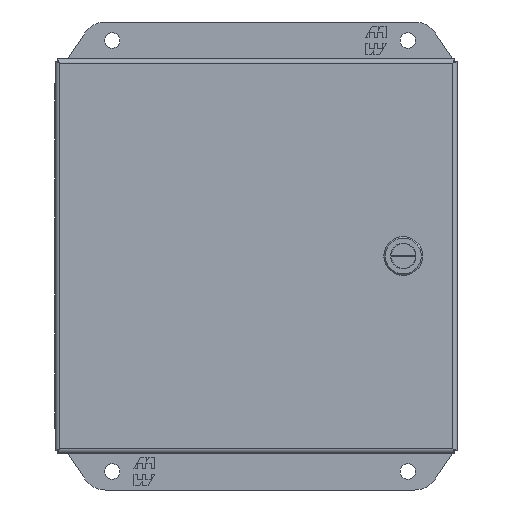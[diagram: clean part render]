
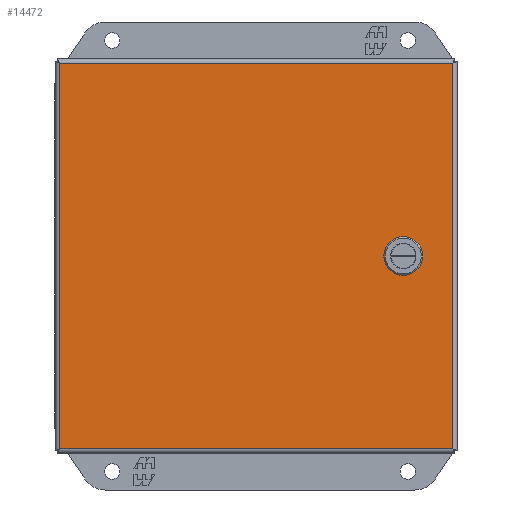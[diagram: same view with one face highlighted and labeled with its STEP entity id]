
A CAD part, front view. The second image highlights one B-rep face of the part: STEP entity #14472.
In plain terms, the highlighted planar face has unit normal (0, -1, 0).
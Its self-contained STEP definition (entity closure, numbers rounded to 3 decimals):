
#1053=PLANE('',#15494);
#2045=LINE('',#25386,#3388);
#2046=LINE('',#25389,#3389);
#2047=LINE('',#25391,#3390);
#2048=LINE('',#25393,#3391);
#2049=LINE('',#25394,#3392);
#2050=LINE('',#25397,#3393);
#2051=LINE('',#25399,#3394);
#2052=LINE('',#25401,#3395);
#2053=LINE('',#25403,#3396);
#2054=LINE('',#25405,#3397);
#2055=LINE('',#25407,#3398);
#2056=LINE('',#25409,#3399);
#3388=VECTOR('',#17977,1000.);
#3389=VECTOR('',#17978,1000.);
#3390=VECTOR('',#17979,1000.);
#3391=VECTOR('',#17980,1000.);
#3392=VECTOR('',#17981,1000.);
#3393=VECTOR('',#17982,1000.);
#3394=VECTOR('',#17983,1000.);
#3395=VECTOR('',#17984,1000.);
#3396=VECTOR('',#17985,1000.);
#3397=VECTOR('',#17986,1000.);
#3398=VECTOR('',#17987,1000.);
#3399=VECTOR('',#17988,1000.);
#6583=ORIENTED_EDGE('',*,*,#9463,.T.);
#6584=ORIENTED_EDGE('',*,*,#9464,.T.);
#6585=ORIENTED_EDGE('',*,*,#9465,.T.);
#6586=ORIENTED_EDGE('',*,*,#9466,.T.);
#6587=ORIENTED_EDGE('',*,*,#9467,.T.);
#6588=ORIENTED_EDGE('',*,*,#9468,.T.);
#6589=ORIENTED_EDGE('',*,*,#9469,.T.);
#6590=ORIENTED_EDGE('',*,*,#9470,.T.);
#6591=ORIENTED_EDGE('',*,*,#9471,.T.);
#6592=ORIENTED_EDGE('',*,*,#9472,.T.);
#6593=ORIENTED_EDGE('',*,*,#9473,.T.);
#6594=ORIENTED_EDGE('',*,*,#9474,.T.);
#9463=EDGE_CURVE('',#11119,#11120,#2045,.T.);
#9464=EDGE_CURVE('',#11120,#11121,#2046,.T.);
#9465=EDGE_CURVE('',#11121,#11122,#2047,.T.);
#9466=EDGE_CURVE('',#11122,#11119,#2048,.T.);
#9467=EDGE_CURVE('',#11123,#11124,#2049,.T.);
#9468=EDGE_CURVE('',#11124,#11125,#2050,.T.);
#9469=EDGE_CURVE('',#11125,#11126,#2051,.T.);
#9470=EDGE_CURVE('',#11126,#11127,#2052,.T.);
#9471=EDGE_CURVE('',#11127,#11128,#2053,.T.);
#9472=EDGE_CURVE('',#11128,#11129,#2054,.T.);
#9473=EDGE_CURVE('',#11129,#11130,#2055,.T.);
#9474=EDGE_CURVE('',#11130,#11123,#2056,.T.);
#11119=VERTEX_POINT('',#25387);
#11120=VERTEX_POINT('',#25388);
#11121=VERTEX_POINT('',#25390);
#11122=VERTEX_POINT('',#25392);
#11123=VERTEX_POINT('',#25395);
#11124=VERTEX_POINT('',#25396);
#11125=VERTEX_POINT('',#25398);
#11126=VERTEX_POINT('',#25400);
#11127=VERTEX_POINT('',#25402);
#11128=VERTEX_POINT('',#25404);
#11129=VERTEX_POINT('',#25406);
#11130=VERTEX_POINT('',#25408);
#12517=EDGE_LOOP('',(#6583,#6584,#6585,#6586));
#12518=EDGE_LOOP('',(#6587,#6588,#6589,#6590,#6591,#6592,#6593,#6594));
#13429=FACE_BOUND('',#12517,.T.);
#13430=FACE_BOUND('',#12518,.T.);
#14472=ADVANCED_FACE('',(#13429,#13430),#1053,.T.);
#15494=AXIS2_PLACEMENT_3D('',#25385,#17975,#17976);
#17975=DIRECTION('',(0.,-1.,0.));
#17976=DIRECTION('',(0.,0.,-1.));
#17977=DIRECTION('',(0.,0.,-1.));
#17978=DIRECTION('',(1.,0.,0.));
#17979=DIRECTION('',(0.,0.,1.));
#17980=DIRECTION('',(-1.,0.,0.));
#17981=DIRECTION('',(0.,0.,1.));
#17982=DIRECTION('',(0.707,0.,0.707));
#17983=DIRECTION('',(1.,0.,0.));
#17984=DIRECTION('',(0.707,0.,-0.707));
#17985=DIRECTION('',(0.,0.,-1.));
#17986=DIRECTION('',(-0.707,0.,-0.707));
#17987=DIRECTION('',(-1.,0.,0.));
#17988=DIRECTION('',(-0.707,0.,0.707));
#25385=CARTESIAN_POINT('',(-101.422,0.,-99.416));
#25386=CARTESIAN_POINT('',(-101.422,0.,99.416));
#25387=CARTESIAN_POINT('',(-101.422,0.,99.416));
#25388=CARTESIAN_POINT('',(-101.422,0.,-99.416));
#25389=CARTESIAN_POINT('',(-101.422,0.,-99.416));
#25390=CARTESIAN_POINT('',(101.422,0.,-99.416));
#25391=CARTESIAN_POINT('',(101.422,0.,-99.416));
#25392=CARTESIAN_POINT('',(101.422,0.,99.416));
#25393=CARTESIAN_POINT('',(101.422,0.,99.416));
#25394=CARTESIAN_POINT('',(67.462,0.,-1.92));
#25395=CARTESIAN_POINT('',(67.462,0.,-1.92));
#25396=CARTESIAN_POINT('',(67.462,0.,1.92));
#25397=CARTESIAN_POINT('',(67.462,0.,1.92));
#25398=CARTESIAN_POINT('',(73.95,0.,8.407));
#25399=CARTESIAN_POINT('',(73.95,0.,8.407));
#25400=CARTESIAN_POINT('',(77.79,0.,8.407));
#25401=CARTESIAN_POINT('',(77.79,0.,8.407));
#25402=CARTESIAN_POINT('',(84.277,0.,1.92));
#25403=CARTESIAN_POINT('',(84.277,0.,1.92));
#25404=CARTESIAN_POINT('',(84.277,0.,-1.92));
#25405=CARTESIAN_POINT('',(84.277,0.,-1.92));
#25406=CARTESIAN_POINT('',(77.79,0.,-8.407));
#25407=CARTESIAN_POINT('',(77.79,0.,-8.407));
#25408=CARTESIAN_POINT('',(73.95,0.,-8.407));
#25409=CARTESIAN_POINT('',(73.95,0.,-8.407));
